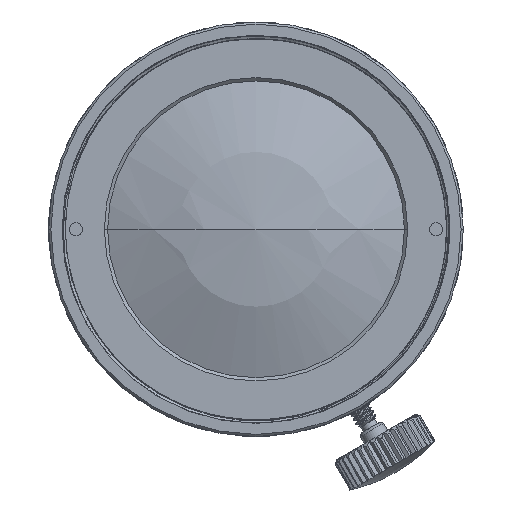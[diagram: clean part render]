
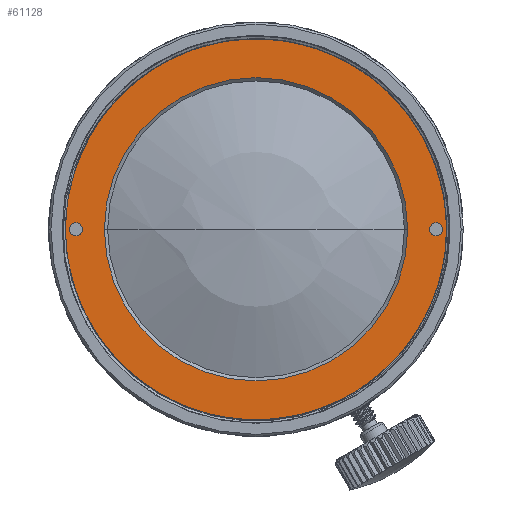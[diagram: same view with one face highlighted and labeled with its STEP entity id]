
A CAD part, left-side view. The second image highlights one B-rep face of the part: STEP entity #61128.
In plain terms, the highlighted planar face has unit normal (-1, 0, 0).
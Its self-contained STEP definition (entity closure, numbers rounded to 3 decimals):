
#59218=CARTESIAN_POINT('',(-14.879,0.,0.));
#59219=DIRECTION('',(1.,0.,0.));
#59220=DIRECTION('',(0.,-1.,0.));
#59221=AXIS2_PLACEMENT_3D('',#59218,#59219,#59220);
#59227=CARTESIAN_POINT('',(-14.879,0.,0.));
#59228=DIRECTION('',(-1.,0.,0.));
#59229=DIRECTION('',(0.,-1.,0.));
#59230=AXIS2_PLACEMENT_3D('',#59227,#59228,#59229);
#59236=CARTESIAN_POINT('',(-14.879,0.,0.));
#59237=DIRECTION('',(1.,0.,0.));
#59238=DIRECTION('',(0.,-1.,0.));
#59239=AXIS2_PLACEMENT_3D('',#59236,#59237,#59238);
#59241=CARTESIAN_POINT('',(-14.879,0.,0.));
#59242=DIRECTION('',(-1.,0.,0.));
#59243=DIRECTION('',(0.,-1.,0.));
#59244=AXIS2_PLACEMENT_3D('',#59241,#59242,#59243);
#59246=CARTESIAN_POINT('',(-14.879,-16.5,0.));
#59247=DIRECTION('',(-1.,0.,0.));
#59248=DIRECTION('',(0.,0.,-1.));
#59249=AXIS2_PLACEMENT_3D('',#59246,#59247,#59248);
#59251=CARTESIAN_POINT('',(-14.879,-16.5,0.));
#59252=DIRECTION('',(-1.,0.,0.));
#59253=DIRECTION('',(0.,0.,1.));
#59254=AXIS2_PLACEMENT_3D('',#59251,#59252,#59253);
#59256=CARTESIAN_POINT('',(-14.879,16.5,0.));
#59257=DIRECTION('',(-1.,0.,0.));
#59258=DIRECTION('',(0.,0.,-1.));
#59259=AXIS2_PLACEMENT_3D('',#59256,#59257,#59258);
#59261=CARTESIAN_POINT('',(-14.879,16.5,0.));
#59262=DIRECTION('',(-1.,0.,0.));
#59263=DIRECTION('',(0.,0.,1.));
#59264=AXIS2_PLACEMENT_3D('',#59261,#59262,#59263);
#59408=CARTESIAN_POINT('',(-14.879,-13.9,0.));
#59409=VERTEX_POINT('',#59408);
#59410=CARTESIAN_POINT('',(-14.879,-17.85,0.));
#59412=VERTEX_POINT('',#59410);
#59428=CARTESIAN_POINT('',(-14.879,13.9,0.));
#59429=VERTEX_POINT('',#59428);
#59430=CARTESIAN_POINT('',(-14.879,17.85,0.));
#59432=VERTEX_POINT('',#59430);
#59485=CARTESIAN_POINT('',(-14.879,-16.5,-0.6));
#59486=CARTESIAN_POINT('',(-14.879,-16.5,0.6));
#59487=VERTEX_POINT('',#59485);
#59488=VERTEX_POINT('',#59486);
#59489=CARTESIAN_POINT('',(-14.879,16.5,-0.6));
#59490=CARTESIAN_POINT('',(-14.879,16.5,0.6));
#59491=VERTEX_POINT('',#59489);
#59492=VERTEX_POINT('',#59490);
#61101=CARTESIAN_POINT('',(-14.879,0.,0.));
#61102=DIRECTION('',(1.,0.,0.));
#61103=DIRECTION('',(0.,-1.,0.));
#61104=AXIS2_PLACEMENT_3D('',#61101,#61102,#61103);
#61105=PLANE('',#61104);
#61106=ORIENTED_EDGE('',*,*,#61094,.F.);
#61107=ORIENTED_EDGE('',*,*,#61083,.T.);
#61108=EDGE_LOOP('',(#61106,#61107));
#61109=FACE_OUTER_BOUND('',#61108,.F.);
#61111=ORIENTED_EDGE('',*,*,#61110,.F.);
#61113=ORIENTED_EDGE('',*,*,#61112,.T.);
#61114=EDGE_LOOP('',(#61111,#61113));
#61115=FACE_BOUND('',#61114,.F.);
#61117=ORIENTED_EDGE('',*,*,#61116,.T.);
#61119=ORIENTED_EDGE('',*,*,#61118,.T.);
#61120=EDGE_LOOP('',(#61117,#61119));
#61121=FACE_BOUND('',#61120,.F.);
#61123=ORIENTED_EDGE('',*,*,#61122,.T.);
#61125=ORIENTED_EDGE('',*,*,#61124,.T.);
#61126=EDGE_LOOP('',(#61123,#61125));
#61127=FACE_BOUND('',#61126,.F.);
#61128=ADVANCED_FACE('',(#61109,#61115,#61121,#61127),#61105,.F.);
#59222=CIRCLE('',#59221,17.85);
#59231=CIRCLE('',#59230,17.85);
#59240=CIRCLE('',#59239,13.9);
#59245=CIRCLE('',#59244,13.9);
#59250=CIRCLE('',#59249,0.6);
#59255=CIRCLE('',#59254,0.6);
#59260=CIRCLE('',#59259,0.6);
#59265=CIRCLE('',#59264,0.6);
#61083=EDGE_CURVE('',#59412,#59432,#59222,.T.);
#61094=EDGE_CURVE('',#59412,#59432,#59231,.T.);
#61110=EDGE_CURVE('',#59409,#59429,#59240,.T.);
#61112=EDGE_CURVE('',#59409,#59429,#59245,.T.);
#61116=EDGE_CURVE('',#59487,#59488,#59250,.T.);
#61118=EDGE_CURVE('',#59488,#59487,#59255,.T.);
#61122=EDGE_CURVE('',#59491,#59492,#59260,.T.);
#61124=EDGE_CURVE('',#59492,#59491,#59265,.T.);
